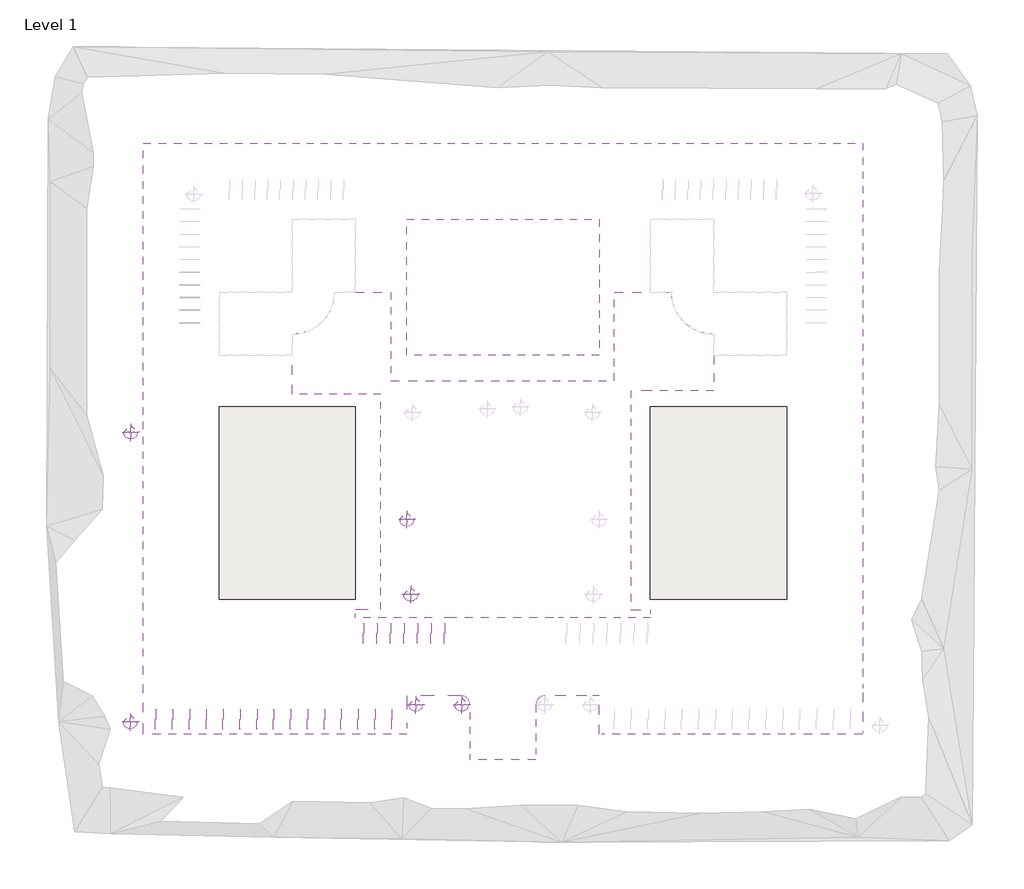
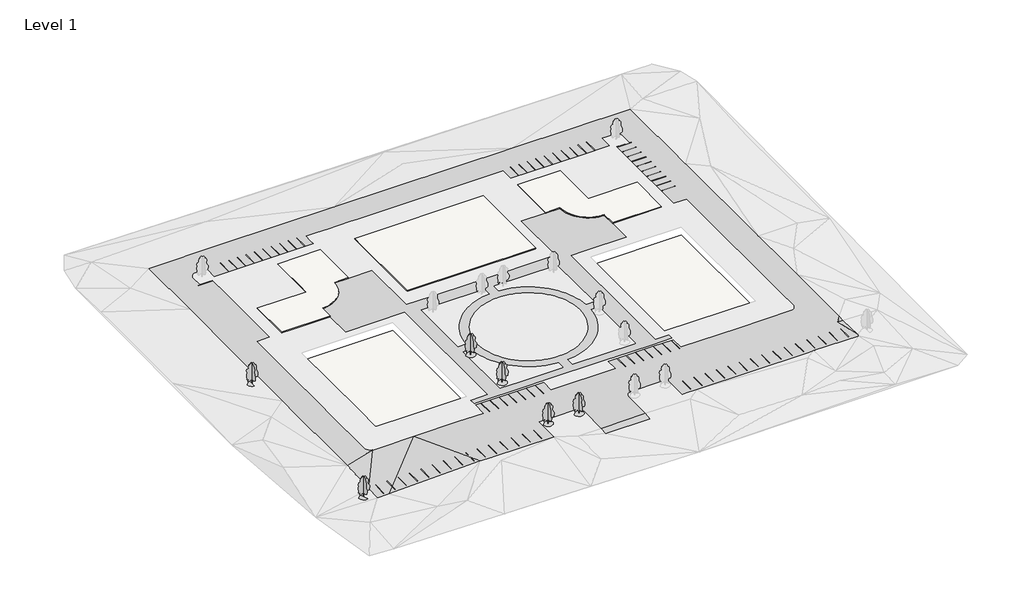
# One storey, part 1 of 3: 24 proxies, 6 geographic elements, 5 slabs.
"""IFC4 building model written with IfcOpenShell, lengths in millimetres."""

from ifc_helpers import new_model, si_unit, point, frame, frame_2d, origin, place, context, project, spatial, polyline, circle_curve, trimmed, segment, composite_curve, outline, extrude, triangles, transform, mapped, element, save
from components import m_parking_space_4800_x_2400mm_90_deg_2b7ae786, m_parking_space_4800_x_2400mm_90_deg_cf846cf7, m_rpc_tree_deciduous_red_ash_7_6_meters_16c8020d

model = new_model("IFC4")

# Units and contexts
model_context = context("Model", 3, world=origin())
ifc_project = project(units=[si_unit("LENGTHUNIT", "METRE", prefix="MILLI")], contexts=[model_context])

# Site, building, storey
site = spatial("IfcSite", under=ifc_project)
building = spatial("IfcBuilding", under=site)
storey = spatial("IfcBuildingStorey", under=building, Name="Level 1", Elevation=0.0)

# Proxies
placement = place(None, origin())
element("IfcBuildingElementProxy", 1, Name="Building Element Proxy", at=placement, inside=storey, context=model_context, shape_type="Tessellation", body=[
    triangles([(-85535.6813232, -72322.6413208, 1983.1879601), (-81381.8232422, -72322.6413208, 2006.5802822), (-48930.6040283, -72322.6413208, 3049.9998779), (-45175.5681152, -72322.6413208, 3049.9998779), (-22999.6798462, -72322.6413208, 3049.9998779), (-22999.6798462, -69598.8029297, 3049.9998779), (-22999.6798462, -63177.6413818, 3049.9998779), (-16508.3272339, -63177.6413818, 3049.9998779), (-10154.9429443, -63177.6413818, 3049.9998779), (-9734.4715164, -63219.0574585, 3049.9998779), (-9330.1595673, -63341.7011353, 3049.9998779), (-8957.5433578, -63540.8703735, 3049.9998779), (-8630.942363, -63808.9051758, 3049.9998779), (-8362.9081421, -64135.5038452, 3049.9998779), (-8163.7406479, -64508.1229614, 3049.9998779), (-8041.093483, -64912.4331665, 3049.9998779), (-7999.6808945, -65332.9051758, 3049.9998779), (-7999.6808945, -75662.4746704, 3049.9998779), (-7999.6808945, -78418.6459717, 2673.7301125), (7616.3188293, -78418.6459717, 2673.7301125), (7616.3188293, -75662.4746704, 3049.9998779), (7616.3188293, -65332.9051758, 3049.9998779), (7657.7319992, -64912.4331665, 3049.9998779), (7780.3785828, -64508.1229614, 3049.9998779), (7979.546077, -64135.5038452, 3049.9998779), (8247.5802979, -63808.9051758, 3049.9998779), (8574.1812927, -63540.8703735, 3049.9998779), (8946.7975021, -63341.7011353, 3049.9998779), (9351.1100327, -63219.0574585, 3049.9998779), (9771.5802979, -63177.6413818, 3049.9998779), (19669.4412598, -63177.6413818, 3049.9998779), (22616.3195251, -63177.6413818, 3049.9998779), (22616.3195251, -72322.6413208, 3049.9998779), (23909.6359314, -72322.6413208, 3049.9998779), (27666.706604, -72322.6413208, 3049.9998779), (66812.228833, -72322.6413208, 3049.9998779), (69215.7286377, -72322.6413208, 3049.9998779), (85152.3186768, -72322.6413208, 3049.9998779), (85152.3186768, -71605.2292969, 3049.9998779), (85152.3186768, -62436.5610352, 2858.9560158), (85152.3186768, -60490.0798462, 3049.9998779), (85152.3186768, -53151.4626709, 3049.9998779), (85152.3186768, -34557.1511353, 3049.9998779), (85152.3186768, -26828.7577515, 3049.9998779), (85152.3186768, -10563.9423981, 3049.9998779), (85152.3186768, 34057.6467407, 3049.9998779), (85152.3186768, 67885.3586792, 3049.9998779), (43350.9678589, 67885.3586792, 3049.9998779), (-19981.6152283, 67885.3586792, 3049.9998779), (-60150.6587036, 67885.3586792, 3049.9998779), (-85535.6813232, 67885.3586792, 3049.9998779), (-85535.6813232, 42777.6354126, 3049.9998779), (-85535.6813232, 17541.3572021, 3049.9998779), (-85535.6813232, -14016.0200592, 3049.9998779), (-85535.6813232, -53825.1843384, 3049.9998779), (-85535.6813232, -67074.5988647, 2206.9487206), (-76390.6813843, 17541.3572021, 3049.9998779), (-71818.6813843, 17541.3572021, 3049.9998779), (-71818.6813843, 28075.6955933, 3049.9998779), (-71818.6813843, 44745.1385742, 3049.9998779), (-71818.6813843, 52541.3557251, 3049.9998779), (-75664.1257324, 52541.3557251, 3049.9998779), (-76390.6813843, 52541.3557251, 3049.9998779), (-76390.6813843, 56585.0949463, 3049.9998779), (-76349.2699585, 57005.5669556, 3049.9998779), (-76226.6216309, 57409.8771606, 3049.9998779), (-76027.4523926, 57782.4962769, 3049.9998779), (-75759.4175903, 58109.0949463, 3049.9998779), (-75432.8189209, 58377.1297485, 3049.9998779), (-75060.2044556, 58576.2989868, 3049.9998779), (-74655.8895996, 58698.9426636, 3049.9998779), (-74235.4175903, 58740.3587402, 3049.9998779), (-70191.68302, 58740.3587402, 3049.9998779), (-70191.68302, 57954.0206909, 3049.9998779), (-70191.68302, 54168.3587402, 3049.9998779), (-67067.1993164, 54168.3587402, 3049.9998779), (-37842.8319763, 54168.3587402, 3049.9998779), (-35191.6798462, 54168.3587402, 3049.9998779), (-35191.6798462, 56204.3786499, 3049.9998779), (-35191.6798462, 58740.3587402, 3049.9998779), (-31889.525592, 58740.3587402, 3049.9998779), (-27301.2963501, 58740.3587402, 3049.9998779), (-19739.2625793, 58740.3587402, 3049.9998779), (-17214.9375916, 58740.3587402, 3049.9998779), (34808.3195251, 58740.3587402, 3049.9998779), (34808.3195251, 54168.3587402, 3049.9998779), (41448.958374, 54168.3587402, 3049.9998779), (50660.0054443, 54168.3587402, 3049.9998779), (60301.2448608, 54168.3587402, 3049.9998779), (69808.3203735, 54168.3587402, 3049.9998779), (69808.3203735, 58740.3587402, 3049.9998779), (73852.0595947, 58740.3587402, 3049.9998779), (74272.5269531, 58698.9426636, 3049.9998779), (74676.8418091, 58576.2989868, 3049.9998779), (75049.4562744, 58377.1297485, 3049.9998779), (75376.0595947, 58109.0949463, 3049.9998779), (75644.0897461, 57782.4962769, 3049.9998779), (75843.2589844, 57409.8771606, 3049.9998779), (75965.907312, 57005.5669556, 3049.9998779), (76007.3187378, 56585.0949463, 3049.9998779), (76007.3187378, 52541.3557251, 3049.9998779), (71435.3187378, 52541.3557251, 3049.9998779), (71435.3187378, 45158.1180176, 3049.9998779), (71435.3187378, 17541.3572021, 3049.9998779), (76007.3187378, 17541.3572021, 3049.9998779), (76007.3187378, 6598.6321106, 3049.9998779), (76007.3187378, -34066.0741333, 3049.9998779), (76007.3187378, -40266.6444946, 3049.9998779), (76007.3187378, -48111.3796143, 3049.9998779), (75965.907312, -48531.8516235, 3049.9998779), (75843.2589844, -48936.1618286, 3049.9998779), (75644.0897461, -49308.7809448, 3049.9998779), (75376.0595947, -49635.3796143, 3049.9998779), (75049.4562744, -49903.4144165, 3049.9998779), (74676.8418091, -50102.5836548, 3049.9998779), (74272.5269531, -50225.2319824, 3049.9998779), (73852.0595947, -50266.6434082, 3049.9998779), (55536.4473267, -50266.6434082, 3049.9998779), (34808.3195251, -50266.6434082, 3049.9998779), (34808.3195251, -45694.6434082, 3049.9998779), (27601.8896301, -45694.6434082, 3049.9998779), (14380.2350372, -45694.6434082, 3049.9998779), (11808.3187683, -45694.6434082, 3049.9998779), (11808.3187683, -50266.6434082, 3049.9998779), (-11191.6808258, -50266.6434082, 3049.9998779), (-11191.6808258, -45694.6434082, 3049.9998779), (-16971.6419769, -45694.6434082, 3049.9998779), (-35191.6798462, -45694.6434082, 3049.9998779), (-35191.6798462, -50694.6405396, 3049.9998779), (-44268.6885864, -50694.6405396, 3049.9998779), (-60146.5705811, -50694.6405396, 3049.9998779), (-74235.4175903, -50694.6405396, 3049.9998779), (-74655.8895996, -50653.2291138, 3049.9998779), (-75060.2044556, -50530.585437, 3049.9998779), (-75432.8189209, -50331.4161987, 3049.9998779), (-75759.4175903, -50063.3813965, 3049.9998779), (-76027.4523926, -49736.7780762, 3049.9998779), (-76226.6216309, -49364.1636108, 3049.9998779), (-76349.2699585, -48959.8534058, 3049.9998779), (-76390.6813843, -48539.3813965, 3049.9998779), (-76390.6813843, -27227.4310913, 3049.9998779), (-76390.6813843, -22144.2111328, 3049.9998779), (-76390.6813843, -2590.5180405, 3049.9998779), (83304.0593994, -62594.9839233, 3049.9998779)], [[1, 2, 56], [56, 133, 55], [56, 2, 132], [3, 4, 130], [132, 2, 131], [130, 131, 3], [4, 129, 130], [131, 2, 3], [133, 56, 132], [138, 139, 55], [140, 141, 55], [139, 140, 55], [133, 134, 55], [136, 137, 55], [135, 136, 55], [134, 135, 55], [138, 55, 137], [55, 141, 54], [7, 4, 6], [11, 12, 125], [26, 13, 14], [125, 13, 26], [25, 14, 15], [12, 13, 125], [129, 7, 127], [129, 4, 7], [127, 128, 129], [7, 8, 127], [9, 10, 125], [9, 125, 8], [10, 11, 125], [126, 127, 125], [125, 127, 8], [6, 4, 5], [53, 59, 52], [52, 64, 51], [63, 64, 52], [53, 54, 143], [143, 57, 53], [59, 53, 57], [63, 60, 62], [60, 63, 52], [54, 142, 143], [54, 141, 142], [65, 66, 51], [51, 67, 68], [67, 51, 66], [65, 51, 64], [68, 69, 51], [71, 72, 51], [70, 71, 51], [69, 70, 51], [51, 72, 50], [59, 60, 52], [61, 62, 60], [57, 58, 59], [77, 78, 79], [74, 75, 76], [77, 50, 76], [79, 80, 77], [50, 73, 76], [77, 80, 50], [73, 50, 72], [73, 74, 76], [80, 49, 50], [83, 84, 49], [81, 82, 49], [49, 82, 83], [81, 49, 80], [84, 85, 49], [24, 15, 16], [18, 21, 22], [18, 19, 21], [17, 22, 23], [22, 17, 18], [24, 16, 23], [33, 34, 32], [19, 20, 21], [24, 25, 15], [124, 125, 26], [27, 28, 124], [26, 27, 124], [30, 31, 124], [124, 31, 32], [30, 124, 29], [124, 32, 121], [29, 124, 28], [14, 25, 26], [34, 35, 32], [117, 36, 37], [37, 144, 117], [35, 36, 118], [37, 39, 144], [39, 40, 144], [41, 42, 144], [40, 41, 144], [39, 37, 38], [42, 115, 144], [117, 118, 36], [117, 144, 116], [118, 119, 35], [114, 115, 42], [112, 113, 42], [111, 112, 42], [114, 42, 113], [116, 144, 115], [121, 32, 119], [42, 110, 111], [35, 119, 32], [120, 121, 119], [122, 124, 121], [124, 122, 123], [86, 87, 85], [101, 102, 103], [88, 89, 48], [85, 48, 49], [85, 87, 48], [89, 91, 48], [48, 87, 88], [47, 91, 92], [48, 91, 47], [94, 47, 93], [90, 91, 89], [47, 92, 93], [103, 104, 46], [106, 46, 105], [106, 107, 45], [46, 104, 105], [109, 42, 108], [45, 107, 44], [44, 107, 43], [110, 42, 109], [107, 108, 43], [43, 108, 42], [46, 106, 45], [97, 98, 47], [95, 96, 47], [97, 47, 96], [101, 46, 47], [101, 103, 46], [99, 100, 47], [47, 100, 101], [99, 47, 98], [95, 47, 94], [23, 16, 17]], closed=False),
])
element("IfcBuildingElementProxy", 2, Name="Building Element Proxy", at=placement, inside=storey, context=model_context, shape_type="Tessellation", body=[
    triangles([(-35191.6798462, -44694.6439819, 3049.9998779), (-16998.1438477, -44694.6439819, 3049.9998779), (-11191.6808258, -44694.6439819, 3049.9998779), (11808.3187683, -44694.6439819, 3049.9998779), (14077.7000153, -44694.6439819, 3049.9998779), (27740.5509338, -44694.6439819, 3049.9998779), (34808.3195251, -44694.6439819, 3049.9998779), (34808.3195251, -42819.2700806, 3049.9998779), (30133.6467224, -42819.2700806, 3049.9998779), (30133.6467224, -27435.9834778, 3049.9998779), (30133.6467224, 9180.7314789, 3049.9998779), (35210.9461121, 9180.7314789, 3049.9998779), (49808.3178955, 9180.7314789, 3049.9998779), (49808.3178955, 17541.3572021, 3049.9998779), (49808.3178955, 22541.3566589, 3049.9998779), (48828.1498169, 22589.5095337, 3049.9998779), (47857.4137207, 22733.5053955, 3049.9998779), (46905.4718262, 22971.9536316, 3049.9998779), (45981.4863647, 23302.5613586, 3049.9998779), (45094.3498169, 23722.14505, 3049.9998779), (44252.6151489, 24226.6607666, 3049.9998779), (43464.3841919, 24811.2529907, 3049.9998779), (42737.2518311, 25470.2895081, 3049.9998779), (42078.2129883, 26197.4241943, 3049.9998779), (41493.6207642, 26985.6551514, 3049.9998779), (40989.107373, 27827.3898193, 3049.9998779), (40569.5236816, 28714.5240417, 3049.9998779), (40238.9159546, 29638.5095032, 3049.9998779), (40000.4653931, 30590.4537231, 3049.9998779), (39856.4695313, 31561.1851685, 3049.9998779), (39808.3189819, 32541.3578979, 3049.9998779), (38450.1437439, 32541.3578979, 3049.9998779), (34808.3195251, 32541.3578979, 3049.9998779), (26168.9445374, 32541.3578979, 3049.9998779), (26168.9445374, 11541.3571564, 3049.9998779), (-2935.6202316, 11541.3571564, 3049.9998779), (-18488.44823, 11541.3571564, 3049.9998779), (-26831.0552856, 11541.3571564, 3049.9998779), (-26831.0552856, 32541.3578979, 3049.9998779), (-35191.6798462, 32541.3578979, 3049.9998779), (-40191.6816284, 32541.3578979, 3049.9998779), (-40239.8321777, 31561.1851685, 3049.9998779), (-40383.8280396, 30590.4537231, 3049.9998779), (-40622.2786011, 29638.5095032, 3049.9998779), (-40952.8863281, 28714.5240417, 3049.9998779), (-41372.4700195, 27827.3898193, 3049.9998779), (-41876.9834106, 26985.6551514, 3049.9998779), (-42461.5756348, 26197.4241943, 3049.9998779), (-43120.6144775, 25470.2895081, 3049.9998779), (-43847.7468384, 24811.2529907, 3049.9998779), (-44635.9777954, 24226.6607666, 3049.9998779), (-45477.7124634, 23722.14505, 3049.9998779), (-46364.8443604, 23302.5613586, 3049.9998779), (-47288.8344727, 22971.9536316, 3049.9998779), (-48240.7763672, 22733.5053955, 3049.9998779), (-49211.5078125, 22589.5095337, 3049.9998779), (-50191.680542, 22541.3566589, 3049.9998779), (-50191.680542, 17541.3572021, 3049.9998779), (-50191.680542, 8305.3575851, 3049.9998779), (-29191.6809631, 8305.3575851, 3049.9998779), (-29191.6809631, -42694.6404785, 3049.9998779), (-35191.6798462, -42694.6404785, 3049.9998779), (-21426.7688782, -15958.6421814, 3049.9998779), (-24426.7694824, -15958.6421814, 3049.9998779), (-24426.7694824, 6776.4450943, 3049.9998779), (-18362.1733795, 6776.4450943, 3049.9998779), (-1691.6808987, 6776.4450943, 3049.9998779), (-1691.6808987, 3776.4450714, 3049.9998779), (-3132.8497627, 3625.2011055, 3049.9998779), (-4560.3902435, 3376.2636841, 3049.9998779), (-5967.6880646, 3030.7859344, 3049.9998779), (-7348.222403, 2590.3689217, 3049.9998779), (-8695.5959747, 2057.0529282, 3049.9998779), (-10003.5661377, 1433.3094601, 3049.9998779), (-11266.0716339, 722.0285299, 3049.9998779), (-12477.2639832, -73.4940514, 3049.9998779), (-13631.5295746, -949.5721264, 3049.9998779), (-14723.5210602, -1902.1463951, 3049.9998779), (-15748.177121, -2926.8027466, 3049.9998779), (-16700.751535, -4018.7939415, 3049.9998779), (-17576.8294556, -5173.0592422, 3049.9998779), (-18027.3240509, -5858.9429581, 3049.9998779), (-18372.351828, -6384.2515915, 3049.9998779), (-19083.6328308, -7646.7576691, 3049.9998779), (-19707.3761536, -8954.727832, 3049.9998779), (-20240.6924377, -10302.1014038, 3049.9998779), (-20681.1097412, -11682.6357422, 3049.9998779), (-21026.5863281, -13089.9335632, 3049.9998779), (-21275.5246216, -14517.4743347, 3049.9998779), (-21426.7688782, -18958.6427856, 3049.9998779), (-21275.5246216, -20399.8106323, 3049.9998779), (-21026.5863281, -21827.3514038, 3049.9998779), (-20681.1097412, -23234.6492249, 3049.9998779), (-20240.6924377, -24615.1835632, 3049.9998779), (-19707.3761536, -25962.557135, 3049.9998779), (-19083.6328308, -27270.5284607, 3049.9998779), (-18372.351828, -28533.0327942, 3049.9998779), (-17576.8294556, -29744.2263062, 3049.9998779), (-17387.7409973, -29993.3576111, 3049.9998779), (-16700.751535, -30898.4907349, 3049.9998779), (-15748.177121, -31990.4822205, 3049.9998779), (-14723.5210602, -33015.1382813, 3049.9998779), (-13631.5295746, -33967.7126953, 3049.9998779), (-12477.2639832, -34843.7917786, 3049.9998779), (-11266.0716339, -35639.3129883, 3049.9998779), (-10003.5661377, -36350.5951538, 3049.9998779), (-8695.5959747, -36974.3384766, 3049.9998779), (-7348.222403, -37507.6547607, 3049.9998779), (-5967.6880646, -37948.0720642, 3049.9998779), (-4560.3902435, -38293.5486511, 3049.9998779), (-3132.8497627, -38542.4869446, 3049.9998779), (-1691.6808987, -38693.7312012, 3049.9998779), (-1691.6808987, -41693.72948, 3049.9998779), (-17077.6703888, -41693.72948, 3049.9998779), (-24426.7694824, -41693.72948, 3049.9998779), (-24426.7694824, -18958.6427856, 3049.9998779), (1308.3191242, 3776.4450714, 3049.9998779), (1308.3191242, 6776.4450943, 3049.9998779), (24043.4068359, 6776.4450943, 3049.9998779), (24043.4068359, -15958.6421814, 3049.9998779), (21043.4062317, -15958.6421814, 3049.9998779), (20892.1619751, -14517.4743347, 3049.9998779), (20643.2260071, -13089.9335632, 3049.9998779), (20297.7470947, -11682.6357422, 3049.9998779), (19857.3297913, -10302.1014038, 3049.9998779), (19324.0146698, -8954.727832, 3049.9998779), (18700.271347, -7646.7576691, 3049.9998779), (17988.9903442, -6384.2515915, 3049.9998779), (17193.4679718, -5173.0592422, 3049.9998779), (16317.3900513, -4018.7939415, 3049.9998779), (15364.8156372, -2926.8027466, 3049.9998779), (14340.1584137, -1902.1463951, 3049.9998779), (13248.1680908, -949.5721264, 3049.9998779), (12093.9024994, -73.4940514, 3049.9998779), (10882.7101501, 722.0285299, 3049.9998779), (9620.2040726, 1433.3094601, 3049.9998779), (8312.2339096, 2057.0529282, 3049.9998779), (6964.8603378, 2590.3689217, 3049.9998779), (5584.3259995, 3030.7859344, 3049.9998779), (4177.0284691, 3376.2636841, 3049.9998779), (2749.4876976, 3625.2011055, 3049.9998779), (21043.4062317, -18958.6427856, 3049.9998779), (24043.4068359, -18958.6427856, 3049.9998779), (24043.4068359, -41693.72948, 3049.9998779), (13169.8217102, -41693.72948, 3049.9998779), (1308.3191242, -41693.72948, 3049.9998779), (1308.3191242, -38693.7312012, 3049.9998779), (2749.4876976, -38542.4869446, 3049.9998779), (4177.0284691, -38293.5486511, 3049.9998779), (5584.3259995, -37948.0720642, 3049.9998779), (6964.8603378, -37507.6547607, 3049.9998779), (8312.2339096, -36974.3384766, 3049.9998779), (9620.2040726, -36350.5951538, 3049.9998779), (10882.7101501, -35639.3129883, 3049.9998779), (11262.6544006, -35389.7631042, 3049.9998779), (12093.9024994, -34843.7917786, 3049.9998779), (13248.1680908, -33967.7126953, 3049.9998779), (14340.1584137, -33015.1382813, 3049.9998779), (15364.8156372, -31990.4822205, 3049.9998779), (16317.3900513, -30898.4907349, 3049.9998779), (17193.4679718, -29744.2263062, 3049.9998779), (17988.9903442, -28533.0327942, 3049.9998779), (18700.271347, -27270.5284607, 3049.9998779), (19324.0146698, -25962.557135, 3049.9998779), (19857.3297913, -24615.1835632, 3049.9998779), (20297.7470947, -23234.6492249, 3049.9998779), (20643.2260071, -21827.3514038, 3049.9998779), (20892.1619751, -20399.8106323, 3049.9998779), (-18479.6813232, -17458.6424835, 3049.9998779), (-18430.8936035, -16123.7041992, 3049.9998779), (-18284.7920563, -14795.888736, 3049.9998779), (-18042.1568665, -13482.2793823, 3049.9998779), (-17845.2584198, -12729.1323303, 3049.9998779), (-17704.2809784, -12189.8861755, 3049.9998779), (-17272.9677704, -10925.6040436, 3049.9998779), (-16750.5182648, -9696.1785049, 3049.9998779), (-16139.7206635, -8508.169043, 3049.9998779), (-15443.8329071, -7367.9142242, 3049.9998779), (-14666.5687225, -6281.4979797, 3049.9998779), (-13812.0743683, -5254.7164673, 3049.9998779), (-12884.9100311, -4293.0478409, 3049.9998779), (-11890.0207581, -3401.623764, 3049.9998779), (-10832.7166901, -2585.1997604, 3049.9998779), (-9718.6375992, -1848.1322502, 3049.9998779), (-8553.7284714, -1194.3534061, 3049.9998779), (-7344.2040436, -627.3516054, 3049.9998779), (-6096.5179916, -150.152054, 3049.9998779), (-4817.3265953, 234.699228, 3049.9998779), (-3513.4556007, 525.1488685, 3049.9998779), (-2191.8615601, 719.6472073, 3049.9998779), (-859.5957144, 817.156517, 3049.9998779), (308.8186864, 817.156517, 3049.9998779), (476.2338309, 817.156517, 3049.9998779), (1808.4997856, 719.6472073, 3049.9998779), (3130.0938263, 525.1488685, 3049.9998779), (4433.9648209, 234.699228, 3049.9998779), (5713.1559265, -150.152054, 3049.9998779), (6960.8419785, -627.3516054, 3049.9998779), (8170.3664063, -1194.3534061, 3049.9998779), (9335.2761154, -1848.1322502, 3049.9998779), (10449.3552063, -2585.1997604, 3049.9998779), (11506.6592743, -3401.623764, 3049.9998779), (12501.5473846, -4293.0478409, 3049.9998779), (13428.7128845, -5254.7164673, 3049.9998779), (14283.2072388, -6281.4979797, 3049.9998779), (15060.4714233, -7367.9142242, 3049.9998779), (15756.3591797, -8508.169043, 3049.9998779), (16367.156781, -9696.1785049, 3049.9998779), (16889.6051239, -10925.6040436, 3049.9998779), (17320.9183319, -12189.8861755, 3049.9998779), (17658.79422, -13482.2793823, 3049.9998779), (17901.4305725, -14795.888736, 3049.9998779), (18047.5321198, -16123.7041992, 3049.9998779), (18096.3186768, -17458.6424835, 3049.9998779), (18047.5321198, -18793.5807678, 3049.9998779), (17901.4305725, -20121.3973938, 3049.9998779), (17658.79422, -21435.0055847, 3049.9998779), (17320.9183319, -22727.3987915, 3049.9998779), (16889.6051239, -23991.6820862, 3049.9998779), (16367.156781, -25221.1070435, 3049.9998779), (15756.3591797, -26409.1159241, 3049.9998779), (15060.4714233, -27549.3719055, 3049.9998779), (14283.2072388, -28635.7869873, 3049.9998779), (13428.7128845, -29662.5684998, 3049.9998779), (12501.5473846, -30624.2377075, 3049.9998779), (11506.6592743, -31515.6623657, 3049.9998779), (10449.3552063, -32332.0846252, 3049.9998779), (10356.2399597, -32393.6901672, 3049.9998779), (9335.2761154, -33069.1535889, 3049.9998779), (8170.3664063, -33722.9322876, 3049.9998779), (6960.8419785, -34289.9325623, 3049.9998779), (5713.1559265, -34767.133667, 3049.9998779), (4433.9648209, -35151.9845947, 3049.9998779), (3130.0938263, -35442.4343079, 3049.9998779), (1808.4997856, -35636.9317383, 3049.9998779), (476.2338309, -35734.4420654, 3049.9998779), (-859.5957144, -35734.4420654, 3049.9998779), (-2191.8615601, -35636.9317383, 3049.9998779), (-3513.4556007, -35442.4343079, 3049.9998779), (-4817.3265953, -35151.9845947, 3049.9998779), (-6096.5179916, -34767.133667, 3049.9998779), (-7344.2040436, -34289.9325623, 3049.9998779), (-8553.7284714, -33722.9322876, 3049.9998779), (-9718.6375992, -33069.1535889, 3049.9998779), (-10832.7166901, -32332.0846252, 3049.9998779), (-11890.0207581, -31515.6623657, 3049.9998779), (-12884.9100311, -30624.2377075, 3049.9998779), (-13812.0743683, -29662.5684998, 3049.9998779), (-14666.5687225, -28635.7869873, 3049.9998779), (-15443.8329071, -27549.3719055, 3049.9998779), (-16139.7206635, -26409.1159241, 3049.9998779), (-16750.5182648, -25221.1070435, 3049.9998779), (-17272.9677704, -23991.6820862, 3049.9998779), (-17569.8531372, -23121.439856, 3049.9998779), (-17704.2809784, -22727.3987915, 3049.9998779), (-18042.1568665, -21435.0055847, 3049.9998779), (-18284.7920563, -20121.3973938, 3049.9998779), (-18430.8936035, -18793.5807678, 3049.9998779)], [[62, 1, 61], [116, 61, 115], [2, 114, 115], [2, 115, 61], [93, 256, 92], [254, 93, 94], [61, 116, 64], [253, 94, 95], [97, 251, 96], [250, 98, 99], [98, 250, 97], [253, 95, 252], [93, 254, 255], [254, 94, 253], [252, 95, 96], [61, 1, 2], [256, 93, 255], [64, 116, 90], [90, 258, 169], [258, 90, 91], [63, 90, 169], [63, 64, 90], [170, 89, 63], [89, 171, 88], [170, 63, 169], [257, 91, 92], [258, 91, 257], [171, 172, 88], [87, 172, 173], [88, 172, 87], [170, 171, 89], [92, 256, 257], [87, 173, 174], [64, 60, 61], [113, 114, 3], [107, 108, 242], [244, 105, 106], [243, 106, 107], [244, 104, 105], [109, 241, 108], [239, 110, 111], [237, 112, 236], [238, 111, 112], [239, 240, 110], [237, 238, 112], [239, 111, 238], [112, 113, 147], [110, 240, 109], [3, 146, 113], [240, 241, 109], [100, 101, 248], [101, 247, 248], [247, 101, 102], [100, 248, 249], [252, 96, 251], [250, 99, 249], [97, 250, 251], [249, 99, 100], [244, 245, 104], [106, 243, 244], [243, 107, 242], [108, 241, 242], [247, 102, 246], [245, 103, 104], [246, 103, 245], [246, 102, 103], [3, 114, 2], [58, 59, 60], [60, 64, 65], [38, 65, 37], [65, 38, 60], [60, 52, 58], [57, 58, 56], [55, 56, 58], [55, 58, 54], [50, 60, 38], [85, 176, 84], [84, 177, 83], [175, 85, 86], [66, 37, 65], [82, 83, 178], [87, 174, 86], [53, 54, 58], [52, 60, 51], [53, 58, 52], [50, 38, 49], [48, 38, 47], [38, 48, 49], [60, 50, 51], [45, 46, 40], [43, 44, 40], [45, 40, 44], [41, 42, 40], [40, 42, 43], [38, 46, 47], [40, 46, 38], [40, 38, 39], [177, 84, 176], [178, 81, 82], [178, 83, 177], [80, 81, 179], [180, 79, 80], [181, 78, 79], [178, 179, 81], [176, 85, 175], [181, 79, 180], [182, 77, 78], [182, 78, 181], [76, 77, 183], [183, 77, 182], [76, 183, 184], [74, 184, 185], [180, 80, 179], [76, 184, 75], [184, 74, 75], [73, 185, 186], [72, 186, 187], [185, 73, 74], [73, 186, 72], [187, 71, 72], [36, 37, 66], [187, 188, 71], [188, 189, 70], [190, 191, 68], [189, 190, 69], [70, 189, 69], [36, 66, 67], [117, 67, 68], [36, 67, 118], [190, 68, 69], [68, 191, 192], [188, 70, 71], [174, 175, 86], [147, 236, 112], [147, 148, 235], [234, 148, 149], [236, 147, 235], [150, 233, 149], [234, 235, 148], [149, 233, 234], [4, 145, 146], [147, 113, 146], [5, 145, 4], [152, 153, 230], [153, 154, 229], [152, 231, 151], [150, 151, 232], [146, 3, 4], [229, 154, 155], [233, 150, 232], [231, 152, 230], [151, 231, 232], [227, 228, 156], [226, 227, 157], [229, 155, 228], [153, 229, 230], [157, 158, 226], [158, 225, 226], [159, 225, 158], [224, 225, 159], [161, 222, 223], [223, 224, 160], [160, 224, 159], [157, 227, 156], [156, 228, 155], [145, 5, 144], [161, 162, 222], [162, 221, 222], [163, 221, 162], [221, 163, 220], [219, 164, 165], [164, 219, 220], [163, 164, 220], [161, 223, 160], [6, 9, 144], [9, 6, 7], [7, 8, 9], [219, 165, 218], [10, 144, 9], [144, 10, 143], [6, 144, 5], [218, 165, 166], [218, 166, 217], [215, 216, 168], [217, 167, 216], [211, 212, 123], [213, 214, 121], [212, 213, 122], [215, 142, 214], [168, 142, 215], [142, 143, 120], [142, 121, 214], [123, 212, 122], [120, 121, 142], [121, 122, 213], [143, 10, 120], [168, 216, 167], [166, 167, 217], [211, 123, 124], [201, 202, 133], [132, 202, 203], [133, 202, 132], [137, 198, 199], [199, 200, 136], [201, 134, 200], [201, 133, 134], [203, 204, 131], [129, 205, 206], [127, 207, 208], [128, 206, 207], [204, 205, 130], [203, 131, 132], [131, 204, 130], [130, 205, 129], [208, 209, 126], [192, 193, 117], [194, 195, 141], [193, 194, 117], [118, 67, 117], [141, 117, 194], [195, 140, 141], [195, 196, 140], [117, 68, 192], [139, 196, 197], [136, 200, 135], [200, 134, 135], [199, 136, 137], [139, 197, 138], [138, 197, 198], [138, 198, 137], [196, 139, 140], [126, 127, 208], [209, 125, 126], [124, 125, 210], [210, 211, 124], [206, 128, 129], [127, 128, 207], [35, 118, 119], [125, 209, 210], [35, 11, 12], [11, 35, 119], [24, 35, 12], [120, 11, 119], [120, 10, 11], [14, 12, 13], [16, 17, 14], [14, 15, 16], [14, 20, 12], [17, 18, 14], [29, 30, 32], [27, 28, 33], [29, 33, 28], [33, 26, 27], [32, 33, 29], [31, 32, 30], [33, 34, 35], [22, 12, 21], [18, 19, 14], [12, 20, 21], [26, 33, 35], [25, 35, 24], [24, 12, 23], [25, 26, 35], [23, 12, 22], [14, 19, 20], [35, 36, 118]], closed=False),
])
m_parking_space_4800_x_2400mm_90_deg_shape = m_parking_space_4800_x_2400mm_90_deg_2b7ae786(model_context)
element("IfcBuildingElementProxy", 3, Name="M_Parking Space : 4800 x 2400mm - 90 deg", ObjectType="M_Parking Space : 4800 x 2400mm - 90 deg", at=placement, inside=storey, context=model_context, shape_type="MappedRepresentation", body=[
    mapped(m_parking_space_4800_x_2400mm_90_deg_shape, transform((-14091.6809312, -45954.6449904, 3050.7803686), x_axis=(1.0, 0.0, 0.0), y_axis=(0.0, 1.0, 0.0), z_axis=(0.0, 0.0, 1.0))),
])
element("IfcBuildingElementProxy", 4, Name="M_Parking Space : 4800 x 2400mm - 90 deg", ObjectType="M_Parking Space : 4800 x 2400mm - 90 deg", at=placement, inside=storey, context=model_context, shape_type="MappedRepresentation", body=[
    mapped(m_parking_space_4800_x_2400mm_90_deg_shape, transform((-17291.6809312, -45954.6449904, 3050.7803686), x_axis=(1.0, 0.0, 0.0), y_axis=(0.0, 1.0, 0.0), z_axis=(0.0, 0.0, 1.0))),
])
element("IfcBuildingElementProxy", 5, Name="M_Parking Space : 4800 x 2400mm - 90 deg", ObjectType="M_Parking Space : 4800 x 2400mm - 90 deg", at=placement, inside=storey, context=model_context, shape_type="MappedRepresentation", body=[
    mapped(m_parking_space_4800_x_2400mm_90_deg_shape, transform((-20491.6809312, -45954.6449904, 3050.7803686), x_axis=(1.0, 0.0, 0.0), y_axis=(0.0, 1.0, 0.0), z_axis=(0.0, 0.0, 1.0))),
])
element("IfcBuildingElementProxy", 6, Name="M_Parking Space : 4800 x 2400mm - 90 deg", ObjectType="M_Parking Space : 4800 x 2400mm - 90 deg", at=placement, inside=storey, context=model_context, shape_type="MappedRepresentation", body=[
    mapped(m_parking_space_4800_x_2400mm_90_deg_shape, transform((-23691.6809312, -45954.6449904, 3050.7803686), x_axis=(1.0, 0.0, 0.0), y_axis=(0.0, 1.0, 0.0), z_axis=(0.0, 0.0, 1.0))),
])
element("IfcBuildingElementProxy", 7, Name="M_Parking Space : 4800 x 2400mm - 90 deg", ObjectType="M_Parking Space : 4800 x 2400mm - 90 deg", at=placement, inside=storey, context=model_context, shape_type="MappedRepresentation", body=[
    mapped(m_parking_space_4800_x_2400mm_90_deg_shape, transform((-26891.6809312, -45954.6449904, 3050.7803686), x_axis=(1.0, 0.0, 0.0), y_axis=(0.0, 1.0, 0.0), z_axis=(0.0, 0.0, 1.0))),
])
element("IfcBuildingElementProxy", 8, Name="M_Parking Space : 4800 x 2400mm - 90 deg", ObjectType="M_Parking Space : 4800 x 2400mm - 90 deg", at=placement, inside=storey, context=model_context, shape_type="MappedRepresentation", body=[
    mapped(m_parking_space_4800_x_2400mm_90_deg_shape, transform((-30091.6809312, -45954.6449904, 3050.7803686), x_axis=(1.0, 0.0, 0.0), y_axis=(0.0, 1.0, 0.0), z_axis=(0.0, 0.0, 1.0))),
])
element("IfcBuildingElementProxy", 9, Name="M_Parking Space : 4800 x 2400mm - 90 deg", ObjectType="M_Parking Space : 4800 x 2400mm - 90 deg", at=placement, inside=storey, context=model_context, shape_type="MappedRepresentation", body=[
    mapped(m_parking_space_4800_x_2400mm_90_deg_shape, transform((-33291.6809312, -45954.6449904, 3050.7803686), x_axis=(1.0, 0.0, 0.0), y_axis=(0.0, 1.0, 0.0), z_axis=(0.0, 0.0, 1.0))),
])
m_parking_space_4800_x_2400mm_90_deg_2_shape = m_parking_space_4800_x_2400mm_90_deg_cf846cf7(model_context)
element("IfcBuildingElementProxy", 10, Name="M_Parking Space : 4800 x 2400mm - 90 deg", ObjectType="M_Parking Space : 4800 x 2400mm - 90 deg", at=placement, inside=storey, context=model_context, shape_type="MappedRepresentation", body=[
    mapped(m_parking_space_4800_x_2400mm_90_deg_2_shape, transform((-26591.6809312, -71177.6426237, 3050.7803686), x_axis=(1.0, 0.0, 0.0), y_axis=(0.0, 1.0, 0.0), z_axis=(0.0, 0.0, 1.0))),
])
element("IfcBuildingElementProxy", 11, Name="M_Parking Space : 4800 x 2400mm - 90 deg", ObjectType="M_Parking Space : 4800 x 2400mm - 90 deg", at=placement, inside=storey, context=model_context, shape_type="MappedRepresentation", body=[
    mapped(m_parking_space_4800_x_2400mm_90_deg_2_shape, transform((-30591.6809312, -71177.6426237, 3050.7803686), x_axis=(1.0, 0.0, 0.0), y_axis=(0.0, 1.0, 0.0), z_axis=(0.0, 0.0, 1.0))),
])
element("IfcBuildingElementProxy", 12, Name="M_Parking Space : 4800 x 2400mm - 90 deg", ObjectType="M_Parking Space : 4800 x 2400mm - 90 deg", at=placement, inside=storey, context=model_context, shape_type="MappedRepresentation", body=[
    mapped(m_parking_space_4800_x_2400mm_90_deg_2_shape, transform((-34591.6809312, -71177.6426237, 3050.7803686), x_axis=(1.0, 0.0, 0.0), y_axis=(0.0, 1.0, 0.0), z_axis=(0.0, 0.0, 1.0))),
])
element("IfcBuildingElementProxy", 13, Name="M_Parking Space : 4800 x 2400mm - 90 deg", ObjectType="M_Parking Space : 4800 x 2400mm - 90 deg", at=placement, inside=storey, context=model_context, shape_type="MappedRepresentation", body=[
    mapped(m_parking_space_4800_x_2400mm_90_deg_2_shape, transform((-38591.6809312, -71177.6426237, 3050.7803686), x_axis=(1.0, 0.0, 0.0), y_axis=(0.0, 1.0, 0.0), z_axis=(0.0, 0.0, 1.0))),
])
element("IfcBuildingElementProxy", 14, Name="M_Parking Space : 4800 x 2400mm - 90 deg", ObjectType="M_Parking Space : 4800 x 2400mm - 90 deg", at=placement, inside=storey, context=model_context, shape_type="MappedRepresentation", body=[
    mapped(m_parking_space_4800_x_2400mm_90_deg_2_shape, transform((-42591.6809312, -71177.6426237, 3050.7803686), x_axis=(1.0, 0.0, 0.0), y_axis=(0.0, 1.0, 0.0), z_axis=(0.0, 0.0, 1.0))),
])
element("IfcBuildingElementProxy", 15, Name="M_Parking Space : 4800 x 2400mm - 90 deg", ObjectType="M_Parking Space : 4800 x 2400mm - 90 deg", at=placement, inside=storey, context=model_context, shape_type="MappedRepresentation", body=[
    mapped(m_parking_space_4800_x_2400mm_90_deg_2_shape, transform((-46591.6809312, -71177.6426237, 3050.7803686), x_axis=(1.0, 0.0, 0.0), y_axis=(0.0, 1.0, 0.0), z_axis=(0.0, 0.0, 1.0))),
])
element("IfcBuildingElementProxy", 16, Name="M_Parking Space : 4800 x 2400mm - 90 deg", ObjectType="M_Parking Space : 4800 x 2400mm - 90 deg", at=placement, inside=storey, context=model_context, shape_type="MappedRepresentation", body=[
    mapped(m_parking_space_4800_x_2400mm_90_deg_2_shape, transform((-50591.6809312, -71177.6426237, 3033.17615), x_axis=(0.999973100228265, 0.0, 0.007334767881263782), y_axis=(-2.7467277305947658e-05, 0.9999929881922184, 0.0037447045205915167), z_axis=(-0.007334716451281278, -0.003744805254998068, 0.9999660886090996))),
])
element("IfcBuildingElementProxy", 17, Name="M_Parking Space : 4800 x 2400mm - 90 deg", ObjectType="M_Parking Space : 4800 x 2400mm - 90 deg", at=placement, inside=storey, context=model_context, shape_type="MappedRepresentation", body=[
    mapped(m_parking_space_4800_x_2400mm_90_deg_2_shape, transform((-54591.6809312, -71177.6426237, 2887.8486054), x_axis=(0.9994834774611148, 0.0, 0.0321368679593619), y_axis=(-0.0005355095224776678, 0.9998611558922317, 0.01665479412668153), z_axis=(-0.032132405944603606, -0.016663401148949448, 0.9993447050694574))),
])
element("IfcBuildingElementProxy", 18, Name="M_Parking Space : 4800 x 2400mm - 90 deg", ObjectType="M_Parking Space : 4800 x 2400mm - 90 deg", at=placement, inside=storey, context=model_context, shape_type="MappedRepresentation", body=[
    mapped(m_parking_space_4800_x_2400mm_90_deg_2_shape, transform((-58591.6809312, -71177.6426237, 2759.2347016), x_axis=(0.9994834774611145, 0.0, 0.03213686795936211), y_axis=(-0.0005355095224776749, 0.9998611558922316, 0.01665479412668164), z_axis=(-0.03213240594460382, -0.016663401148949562, 0.9993447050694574))),
])
element("IfcBuildingElementProxy", 19, Name="M_Parking Space : 4800 x 2400mm - 90 deg", ObjectType="M_Parking Space : 4800 x 2400mm - 90 deg", at=placement, inside=storey, context=model_context, shape_type="MappedRepresentation", body=[
    mapped(m_parking_space_4800_x_2400mm_90_deg_2_shape, transform((-62591.6809312, -71177.6426237, 2630.6207978), x_axis=(0.9994834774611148, 0.0, 0.03213686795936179), y_axis=(-0.0005355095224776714, 0.9998611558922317, 0.016654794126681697), z_axis=(-0.032132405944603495, -0.016663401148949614, 0.9993447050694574))),
])
element("IfcBuildingElementProxy", 20, Name="M_Parking Space : 4800 x 2400mm - 90 deg", ObjectType="M_Parking Space : 4800 x 2400mm - 90 deg", at=placement, inside=storey, context=model_context, shape_type="MappedRepresentation", body=[
    mapped(m_parking_space_4800_x_2400mm_90_deg_2_shape, transform((-66591.6809312, -71177.6426237, 2502.0068939), x_axis=(0.9994834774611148, 0.0, 0.0321368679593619), y_axis=(-0.0005355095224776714, 0.9998611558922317, 0.01665479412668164), z_axis=(-0.032132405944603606, -0.01666340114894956, 0.9993447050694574))),
])
element("IfcBuildingElementProxy", 21, Name="M_Parking Space : 4800 x 2400mm - 90 deg", ObjectType="M_Parking Space : 4800 x 2400mm - 90 deg", at=placement, inside=storey, context=model_context, shape_type="MappedRepresentation", body=[
    mapped(m_parking_space_4800_x_2400mm_90_deg_2_shape, transform((-70591.6809312, -71177.6426237, 2373.3929901), x_axis=(0.9994834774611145, 0.0, 0.032136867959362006), y_axis=(-0.0005355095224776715, 0.9998611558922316, 0.016654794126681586), z_axis=(-0.03213240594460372, -0.016663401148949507, 0.9993447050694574))),
])
element("IfcBuildingElementProxy", 22, Name="M_Parking Space : 4800 x 2400mm - 90 deg", ObjectType="M_Parking Space : 4800 x 2400mm - 90 deg", at=placement, inside=storey, context=model_context, shape_type="MappedRepresentation", body=[
    mapped(m_parking_space_4800_x_2400mm_90_deg_2_shape, transform((-74591.6809312, -71177.6426237, 2244.7790863), x_axis=(0.9994834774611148, 0.0, 0.0321368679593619), y_axis=(-0.0005355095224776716, 0.9998611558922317, 0.01665479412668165), z_axis=(-0.032132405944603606, -0.016663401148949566, 0.9993447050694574))),
])
element("IfcBuildingElementProxy", 23, Name="M_Parking Space : 4800 x 2400mm - 90 deg", ObjectType="M_Parking Space : 4800 x 2400mm - 90 deg", at=placement, inside=storey, context=model_context, shape_type="MappedRepresentation", body=[
    mapped(m_parking_space_4800_x_2400mm_90_deg_2_shape, transform((-78591.6809312, -71177.6426237, 2154.6930351), x_axis=(0.9998706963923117, 0.0, 0.016080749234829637), y_axis=(-0.0004696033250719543, 0.9995735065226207, 0.029199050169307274), z_axis=(-0.016073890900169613, -0.029202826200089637, 0.9994442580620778))),
])
element("IfcBuildingElementProxy", 24, Name="M_Parking Space : 4800 x 2400mm - 90 deg", ObjectType="M_Parking Space : 4800 x 2400mm - 90 deg", at=placement, inside=storey, context=model_context, shape_type="MappedRepresentation", body=[
    mapped(m_parking_space_4800_x_2400mm_90_deg_2_shape, transform((-82591.6809312, -71177.6426237, 2049.4695724), x_axis=(0.9999705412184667, 0.0, 0.007675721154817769), y_axis=(-0.00035036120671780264, 0.9989577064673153, 0.045644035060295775), z_axis=(-0.007667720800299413, -0.045645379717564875, 0.9989282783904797))),
])

# Geographic elements
m_rpc_tree_deciduous_red_ash_7_6_meters_shape = m_rpc_tree_deciduous_red_ash_7_6_meters_16c8020d(model_context)
element("IfcGeographicElement", 25, ObjectType="M_RPC Tree - Deciduous : Red Ash - 7.6 Meters", at=placement, inside=storey, context=model_context, shape_type="MappedRepresentation", body=[
    mapped(m_rpc_tree_deciduous_red_ash_7_6_meters_shape, transform((-22999.6809312, -21358.6426237, 3050.0), x_axis=(1.0, 0.0, 0.0), y_axis=(0.0, 1.0, 0.0), z_axis=(0.0, 0.0, 1.0))),
])
element("IfcGeographicElement", 26, ObjectType="M_RPC Tree - Deciduous : Red Ash - 7.6 Meters", at=placement, inside=storey, context=model_context, shape_type="MappedRepresentation", body=[
    mapped(m_rpc_tree_deciduous_red_ash_7_6_meters_shape, transform((-22091.6809312, -39158.6426237, 3050.0), x_axis=(1.0, 0.0, 0.0), y_axis=(0.0, 1.0, 0.0), z_axis=(0.0, 0.0, 1.0))),
])
element("IfcGeographicElement", 27, ObjectType="M_RPC Tree - Deciduous : Red Ash - 7.6 Meters", at=placement, inside=storey, context=model_context, shape_type="MappedRepresentation", body=[
    mapped(m_rpc_tree_deciduous_red_ash_7_6_meters_shape, transform((-88535.6809312, -650.6426237, 2636.2389452), x_axis=(1.0, 0.0, 0.0), y_axis=(0.0, 1.0, 0.0), z_axis=(0.0, 0.0, 1.0))),
])
element("IfcGeographicElement", 28, ObjectType="M_RPC Tree - Deciduous : Red Ash - 7.6 Meters", at=placement, inside=storey, context=model_context, shape_type="MappedRepresentation", body=[
    mapped(m_rpc_tree_deciduous_red_ash_7_6_meters_shape, transform((-20891.6809312, -65277.6426237, 3050.0), x_axis=(1.0, 0.0, 0.0), y_axis=(0.0, 1.0, 0.0), z_axis=(0.0, 0.0, 1.0))),
])
element("IfcGeographicElement", 29, ObjectType="M_RPC Tree - Deciduous : Red Ash - 7.6 Meters", at=placement, inside=storey, context=model_context, shape_type="MappedRepresentation", body=[
    mapped(m_rpc_tree_deciduous_red_ash_7_6_meters_shape, transform((-9991.6809312, -65277.6426237, 3050.0), x_axis=(1.0, 0.0, 0.0), y_axis=(0.0, 1.0, 0.0), z_axis=(0.0, 0.0, 1.0))),
])
element("IfcGeographicElement", 30, ObjectType="M_RPC Tree - Deciduous : Red Ash - 7.6 Meters", at=placement, inside=storey, context=model_context, shape_type="MappedRepresentation", body=[
    mapped(m_rpc_tree_deciduous_red_ash_7_6_meters_shape, transform((-88635.6809312, -69377.6426237, 1781.7520933), x_axis=(1.0, 0.0, 0.0), y_axis=(0.0, 1.0, 0.0), z_axis=(0.0, 0.0, 1.0))),
])

# Slabs
element("IfcSlab", 31, ObjectType="Pad 1", at=placement, inside=storey, context=model_context, shape_type="SweptSolid", body=[
    extrude(outline(polyline([(-35191.6809312, 5349.3573763), (-35191.6809312, -40266.6426237), (-67499.6809312, -40266.6426237), (-67499.6809312, 5349.3573763), (-35191.6809312, 5349.3573763)])), frame((0.0, 0.0, -304.8), z_axis=(0.0, 0.0, 1.0), x_axis=(1.0, 0.0, 0.0)), (0.0, 0.0, 1.0), 304.8),
])
element("IfcSlab", 32, ObjectType="Pad 1", at=placement, inside=storey, context=model_context, shape_type="SweptSolid", body=[
    extrude(outline(polyline([(22616.3190688, 17541.3573763), (-22999.6809312, 17541.3573763), (-22999.6809312, 49849.3573763), (22616.3190688, 49849.3573763), (22616.3190688, 17541.3573763)])), frame((0.0, 0.0, 3050.7803686), z_axis=(0.0, 0.0, 1.0), x_axis=(1.0, 0.0, 0.0)), (0.0, 0.0, 1.0), 304.8),
])
element("IfcSlab", 33, ObjectType="Pad 1", at=placement, inside=storey, context=model_context, shape_type="SweptSolid", body=[
    extrude(outline(polyline([(34808.3190688, -40266.6426237), (34808.3190688, 5349.3573763), (67116.3190688, 5349.3573763), (67116.3190688, -40266.6426237), (34808.3190688, -40266.6426237)])), frame((0.0, 0.0, -304.8), z_axis=(0.0, 0.0, 1.0), x_axis=(1.0, 0.0, 0.0)), (0.0, 0.0, 1.0), 304.8),
])
element("IfcSlab", 34, ObjectType="Pad 1", at=placement, inside=storey, context=model_context, shape_type="SweptSolid", body=[
    extrude(outline(composite_curve([segment(polyline([(-67499.6809312, 17541.3573763), (-67499.6809312, 32541.3573763), (-50191.6809312, 32541.3573763), (-50191.6809312, 49849.3573763), (-35191.6809312, 49849.3573763), (-35191.6809312, 32541.3573763), (-40191.6809312, 32541.3573763)]), True, "CONTINUOUS"), segment(trimmed(circle_curve(frame_2d((-50191.6809312, 32541.3573763)), 10000.0), [point((-40191.6809312, 32541.3573763))], [point((-50191.6809312, 22541.3573763))], False, "CARTESIAN"), True, "CONTINUOUS"), segment(polyline([(-50191.6809312, 22541.3573763), (-50191.6809312, 17541.3573763), (-67499.6809312, 17541.3573763)]), True, "CONTINUOUS")], self_intersect=False)), frame((0.0, 0.0, 3048.0), z_axis=(0.0, 0.0, 1.0), x_axis=(1.0, 0.0, 0.0)), (0.0, 0.0, 1.0), 304.8),
])
element("IfcSlab", 35, ObjectType="Pad 1", at=placement, inside=storey, context=model_context, shape_type="SweptSolid", body=[
    extrude(outline(composite_curve([segment(polyline([(67116.3190688, 17541.3573763), (49808.3190688, 17541.3573763), (49808.3190688, 22541.3573763)]), True, "CONTINUOUS"), segment(trimmed(circle_curve(frame_2d((49808.3190688, 32541.3573763)), 10000.0), [point((49808.3190688, 22541.3573763))], [point((39808.3190688, 32541.3573763))], False, "CARTESIAN"), True, "CONTINUOUS"), segment(polyline([(39808.3190688, 32541.3573763), (34808.3190688, 32541.3573763), (34808.3190688, 49849.3573763), (49808.3190688, 49849.3573763), (49808.3190688, 32541.3573763), (67116.3190688, 32541.3573763), (67116.3190688, 17541.3573763)]), True, "CONTINUOUS")], self_intersect=False)), frame((0.0, 0.0, 3050.7803686), z_axis=(0.0, 0.0, 1.0), x_axis=(1.0, 0.0, 0.0)), (0.0, 0.0, 1.0), 304.8),
])

save(model, "model.ifc")
